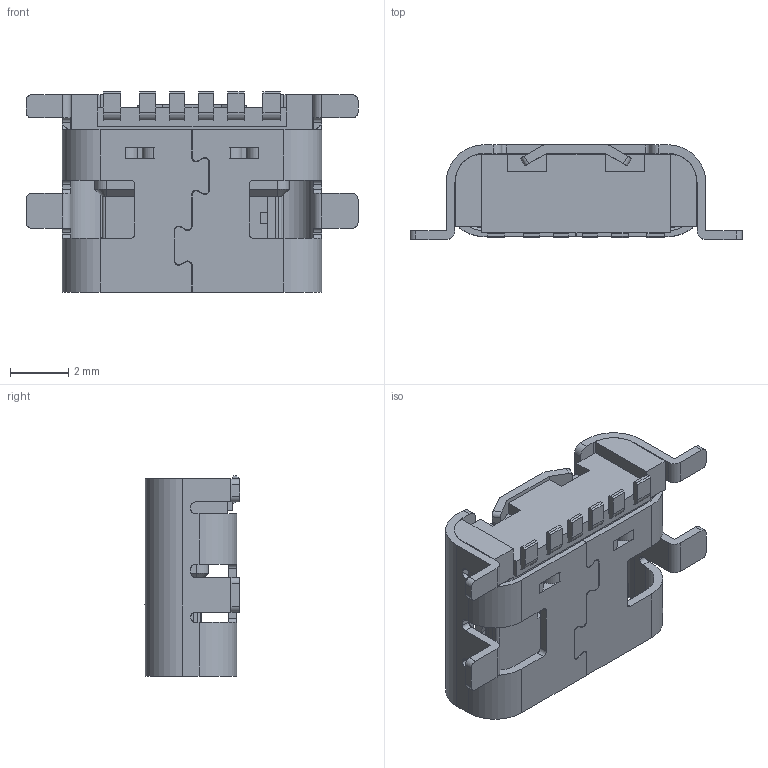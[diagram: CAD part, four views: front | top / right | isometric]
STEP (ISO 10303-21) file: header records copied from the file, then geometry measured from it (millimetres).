
FILE_DESCRIPTION((''),'2;1');
FILE_NAME('USB-TYPEC-CABAN_ASMAAAA_ASM','2018-08-21T',('Administrator'),(''),'PRO/ENGINEER BY PARAMETRIC TECHNOLOGY CORPORATION, 2010280','PRO/ENGINEER BY PARAMETRIC TECHNOLOGY CORPORATION, 2010280','');
FILE_SCHEMA(('AUTOMOTIVE_DESIGN_CC2 { 1 2 10303 214 -1 1 5 2 }'));
Length unit declared in the file: millimetre
Products named in the file (11): BOTTOM-HOUSING0_3; MANIFOLD_SOLID_BREP_25142; MANIFOLD_SOLID_BREP_26901; MANIFOLD_SOLID_BREP_28973; MANIFOLD_SOLID_BREP_30634; MANIFOLD_SOLID_BREP_32699; MANIFOLD_SOLID_BREP_34458; TER-ASSY_00_3_ASM; SHELL-TIEBAN-SHELL_10; USB-TYPEC-CABAN_ASM_22_ASM; USB-TYPEC-CABAN_ASMAAAA_ASM
Assembly tree (10 placements, depth 4):
  USB-TYPEC-CABAN_ASMAAAA_ASM
    USB-TYPEC-CABAN_ASM_22_ASM
      BOTTOM-HOUSING0_3
      TER-ASSY_00_3_ASM
        MANIFOLD_SOLID_BREP_25142
        MANIFOLD_SOLID_BREP_26901
        MANIFOLD_SOLID_BREP_28973
        MANIFOLD_SOLID_BREP_30634
        MANIFOLD_SOLID_BREP_32699
        MANIFOLD_SOLID_BREP_34458
      SHELL-TIEBAN-SHELL_10
Bounding box: 11.44 x 3.28 x 6.9 mm (x, y, z)
Volume: 93.9 mm3; surface area: 526.7 mm2
Topology: 8 solids, 8 shells, 734 faces, 2132 edges, 1391 vertices
Faces by surface type: plane 492, cylinder 216, cone 14, sphere 8, torus 4
Entity records: 33941 total; most frequent: CARTESIAN_POINT 4418, ORIENTED_EDGE 4248, DIRECTION 4051, PRESENTATION_STYLE_ASSIGNMENT 2554, STYLED_ITEM 2132, CURVE_STYLE 2124, EDGE_CURVE 2124, VECTOR 1657
